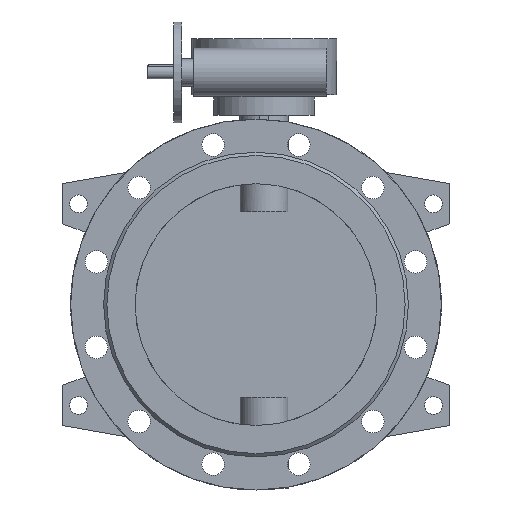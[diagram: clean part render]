
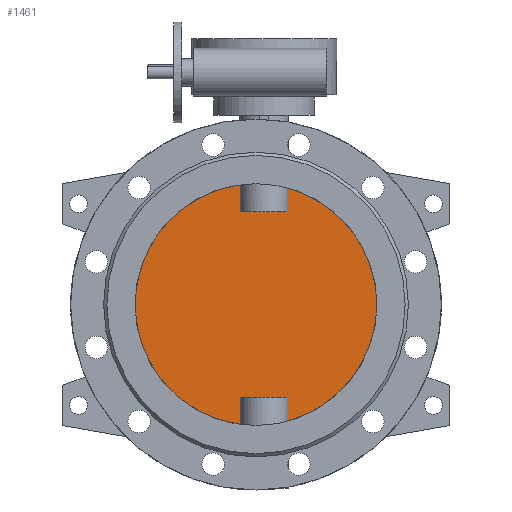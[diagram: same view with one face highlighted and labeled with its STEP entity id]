
A CAD part, front view. The second image highlights one B-rep face of the part: STEP entity #1461.
In plain terms, the highlighted planar face has unit normal (0, -1, 0).
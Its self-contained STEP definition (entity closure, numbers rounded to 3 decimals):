
#1461=ADVANCED_FACE('',(#2981),#2983,.F.);
#2981=FACE_BOUND('',#2982,.T.);
#2982=EDGE_LOOP('',(#3770,#3771,#3772,#3773,#3774,#3775,#3776,#3777));
#2983=PLANE('',#2984);
#2984=AXIS2_PLACEMENT_3D('',#2985,#2986,#2987);
#2985=CARTESIAN_POINT('',(0.,-5.,0.));
#2986=DIRECTION('',(0.,1.,0.));
#2987=DIRECTION('',(1.,0.,0.));
#3770=ORIENTED_EDGE('',*,*,#4167,.T.);
#3771=ORIENTED_EDGE('',*,*,#4173,.T.);
#3772=ORIENTED_EDGE('',*,*,#4174,.T.);
#3773=ORIENTED_EDGE('',*,*,#4175,.T.);
#3774=ORIENTED_EDGE('',*,*,#4169,.T.);
#3775=ORIENTED_EDGE('',*,*,#4176,.T.);
#3776=ORIENTED_EDGE('',*,*,#4177,.T.);
#3777=ORIENTED_EDGE('',*,*,#4178,.T.);
#4167=EDGE_CURVE('',#4806,#4807,#4808,.F.);
#4169=EDGE_CURVE('',#4811,#4809,#4812,.F.);
#4173=EDGE_CURVE('',#4807,#4818,#4819,.T.);
#4174=EDGE_CURVE('',#4818,#4820,#4821,.F.);
#4175=EDGE_CURVE('',#4820,#4811,#4822,.F.);
#4176=EDGE_CURVE('',#4809,#4823,#4824,.F.);
#4177=EDGE_CURVE('',#4823,#4825,#4826,.F.);
#4178=EDGE_CURVE('',#4825,#4806,#4827,.T.);
#4806=VERTEX_POINT('',#7219);
#4807=VERTEX_POINT('',#7220);
#4808=CIRCLE('',#7221,150.);
#4809=VERTEX_POINT('',#7225);
#4811=VERTEX_POINT('',#7331);
#4812=CIRCLE('',#7332,150.);
#4818=VERTEX_POINT('',#7463);
#4819=LINE('',#7464,#7465);
#4820=VERTEX_POINT('',#7467);
#4821=LINE('',#7468,#7469);
#4822=LINE('',#7471,#7472);
#4823=VERTEX_POINT('',#7474);
#4824=LINE('',#7475,#7476);
#4825=VERTEX_POINT('',#7478);
#4826=LINE('',#7479,#7480);
#4827=LINE('',#7482,#7483);
#7219=CARTESIAN_POINT('',(39.58,-5.,-144.684));
#7220=CARTESIAN_POINT('',(39.58,-5.,144.684));
#7221=AXIS2_PLACEMENT_3D('',#7222,#7223,#7224);
#7222=CARTESIAN_POINT('',(0.,-5.,0.));
#7223=DIRECTION('',(0.,1.,0.));
#7224=DIRECTION('',(0.264,0.,0.965));
#7225=CARTESIAN_POINT('',(-19.58,-5.,-148.717));
#7331=CARTESIAN_POINT('',(-19.58,-5.,148.717));
#7332=AXIS2_PLACEMENT_3D('',#7333,#7334,#7335);
#7333=CARTESIAN_POINT('',(0.,-5.,0.));
#7334=DIRECTION('',(0.,1.,0.));
#7335=DIRECTION('',(-0.131,0.,-0.991));
#7463=CARTESIAN_POINT('',(39.58,-5.,115.));
#7464=CARTESIAN_POINT('',(39.58,-5.,144.684));
#7465=VECTOR('',#7466,1.);
#7466=DIRECTION('',(0.,0.,-1.));
#7467=CARTESIAN_POINT('',(-19.58,-5.,115.));
#7468=CARTESIAN_POINT('',(-19.58,-5.,115.));
#7469=VECTOR('',#7470,1.);
#7470=DIRECTION('',(1.,0.,0.));
#7471=CARTESIAN_POINT('',(-19.58,-5.,148.717));
#7472=VECTOR('',#7473,1.);
#7473=DIRECTION('',(0.,0.,-1.));
#7474=CARTESIAN_POINT('',(-19.58,-5.,-115.));
#7475=CARTESIAN_POINT('',(-19.58,-5.,-115.));
#7476=VECTOR('',#7477,1.);
#7477=DIRECTION('',(0.,0.,-1.));
#7478=CARTESIAN_POINT('',(39.58,-5.,-115.));
#7479=CARTESIAN_POINT('',(39.58,-5.,-115.));
#7480=VECTOR('',#7481,1.);
#7481=DIRECTION('',(-1.,0.,0.));
#7482=CARTESIAN_POINT('',(39.58,-5.,-115.));
#7483=VECTOR('',#7484,1.);
#7484=DIRECTION('',(0.,0.,-1.));
